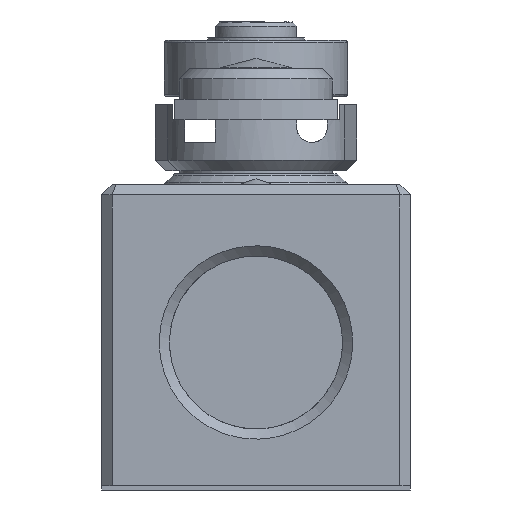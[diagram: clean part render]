
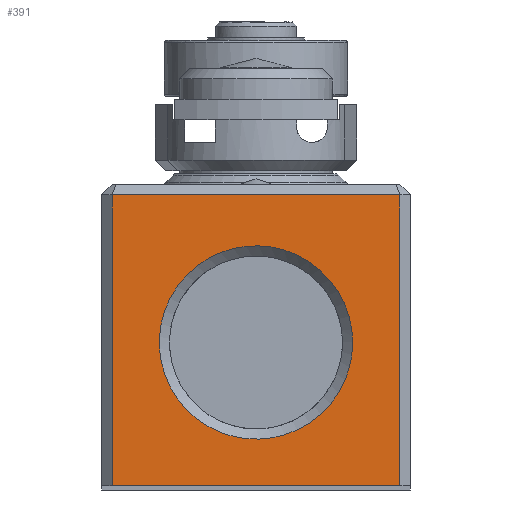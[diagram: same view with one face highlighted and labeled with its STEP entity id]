
A CAD part, front view. The second image highlights one B-rep face of the part: STEP entity #391.
In plain terms, the highlighted planar face has unit normal (0, -1, 0).
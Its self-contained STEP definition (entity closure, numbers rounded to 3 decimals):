
#223=FACE_BOUND('',#801,.T.);
#391=ADVANCED_FACE('',(#591,#223),#3299,.T.);
#591=FACE_OUTER_BOUND('',#800,.T.);
#800=EDGE_LOOP('',(#1666,#1667,#1668,#1669));
#801=EDGE_LOOP('',(#1670));
#1666=ORIENTED_EDGE('',*,*,#2261,.T.);
#1667=ORIENTED_EDGE('',*,*,#2120,.F.);
#1668=ORIENTED_EDGE('',*,*,#2248,.F.);
#1669=ORIENTED_EDGE('',*,*,#2165,.F.);
#1670=ORIENTED_EDGE('',*,*,#2283,.T.);
#2120=EDGE_CURVE('',#3029,#3026,#2682,.T.);
#2165=EDGE_CURVE('',#3071,#3072,#2717,.T.);
#2248=EDGE_CURVE('',#3072,#3029,#2785,.T.);
#2261=EDGE_CURVE('',#3071,#3026,#2794,.T.);
#2283=EDGE_CURVE('',#3123,#3123,#2453,.T.);
#2453=(
BOUNDED_CURVE()
B_SPLINE_CURVE(2,(#6164,#6165,#6166,#6167,#6168,#6169,#6170,#6171,#6172),
 .UNSPECIFIED.,.T.,.F.)
B_SPLINE_CURVE_WITH_KNOTS((3,2,2,2,3),(-59.69,-44.768,
-29.845,-14.923,0.),.UNSPECIFIED.)
CURVE()
GEOMETRIC_REPRESENTATION_ITEM()
RATIONAL_B_SPLINE_CURVE((1.,0.707,1.,0.707,1.,0.707,
1.,0.707,1.))
REPRESENTATION_ITEM('')
);
#2682=B_SPLINE_CURVE_WITH_KNOTS('',1,(#5741,#5742),.UNSPECIFIED.,.F.,.F.,
(2,2),(0.,28.6),.UNSPECIFIED.);
#2717=B_SPLINE_CURVE_WITH_KNOTS('',1,(#5877,#5878),.UNSPECIFIED.,.F.,.F.,
(2,2),(0.,28.6),.UNSPECIFIED.);
#2785=B_SPLINE_CURVE_WITH_KNOTS('',1,(#6084,#6085),.UNSPECIFIED.,.F.,.F.,
(2,2),(0.,28.3),.UNSPECIFIED.);
#2794=B_SPLINE_CURVE_WITH_KNOTS('',1,(#6118,#6119),.UNSPECIFIED.,.F.,.F.,
(2,2),(-28.3,0.),.UNSPECIFIED.);
#3026=VERTEX_POINT('',#4846);
#3029=VERTEX_POINT('',#4849);
#3071=VERTEX_POINT('',#4891);
#3072=VERTEX_POINT('',#4892);
#3123=VERTEX_POINT('',#4943);
#3299=PLANE('',#3526);
#3526=AXIS2_PLACEMENT_3D('',#4642,#3706,$);
#3706=DIRECTION('',(0.,-1.,0.));
#4642=CARTESIAN_POINT('',(16.992,-53.5,-2.472));
#4846=CARTESIAN_POINT('',(14.15,-53.5,0.4));
#4849=CARTESIAN_POINT('',(14.15,-53.5,29.));
#4891=CARTESIAN_POINT('',(-14.15,-53.5,0.4));
#4892=CARTESIAN_POINT('',(-14.15,-53.5,29.));
#4943=CARTESIAN_POINT('',(9.5,-53.5,14.5));
#5741=CARTESIAN_POINT('',(14.15,-53.5,29.));
#5742=CARTESIAN_POINT('',(14.15,-53.5,0.4));
#5877=CARTESIAN_POINT('',(-14.15,-53.5,0.4));
#5878=CARTESIAN_POINT('',(-14.15,-53.5,29.));
#6084=CARTESIAN_POINT('',(-14.15,-53.5,29.));
#6085=CARTESIAN_POINT('',(14.15,-53.5,29.));
#6118=CARTESIAN_POINT('',(-14.15,-53.5,0.4));
#6119=CARTESIAN_POINT('',(14.15,-53.5,0.4));
#6164=CARTESIAN_POINT('',(9.5,-53.5,14.5));
#6165=CARTESIAN_POINT('',(9.5,-53.5,5.));
#6166=CARTESIAN_POINT('',(0.,-53.5,5.));
#6167=CARTESIAN_POINT('',(-9.5,-53.5,5.));
#6168=CARTESIAN_POINT('',(-9.5,-53.5,14.5));
#6169=CARTESIAN_POINT('',(-9.5,-53.5,24.));
#6170=CARTESIAN_POINT('',(0.,-53.5,24.));
#6171=CARTESIAN_POINT('',(9.5,-53.5,24.));
#6172=CARTESIAN_POINT('',(9.5,-53.5,14.5));
